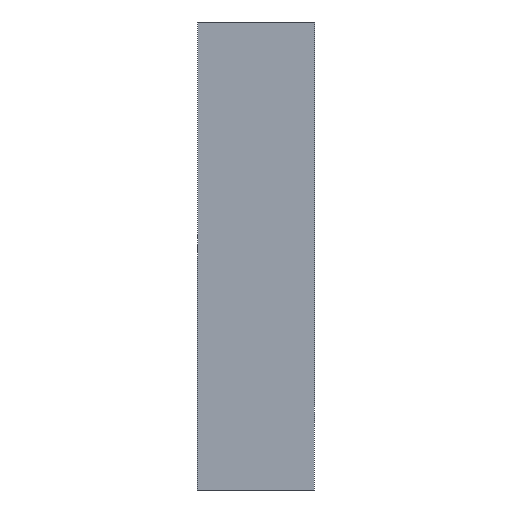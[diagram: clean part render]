
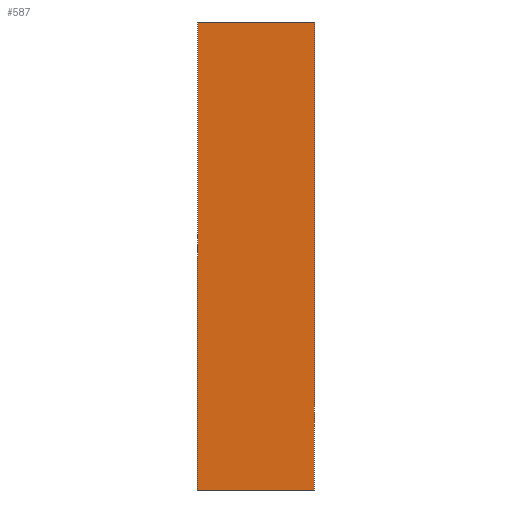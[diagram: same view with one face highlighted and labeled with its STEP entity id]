
A CAD part, front view. The second image highlights one B-rep face of the part: STEP entity #587.
In plain terms, the highlighted planar face has unit normal (0, -1, 0).
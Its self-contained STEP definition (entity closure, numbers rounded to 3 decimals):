
#31 = CARTESIAN_POINT ( 'NONE',  ( 25., -5., -100. ) ) ;
#112 = CARTESIAN_POINT ( 'NONE',  ( 25., -5., 100. ) ) ;
#113 = VECTOR ( 'NONE', #2060, 1000. ) ;
#165 = EDGE_CURVE ( 'NONE', #1278, #1076, #1044, .T. ) ;
#191 = VECTOR ( 'NONE', #648, 1000. ) ;
#423 = AXIS2_PLACEMENT_3D ( 'NONE', #2726, #1368, #695 ) ;
#502 = DIRECTION ( 'NONE',  ( -1., 0., 0. ) ) ;
#587 = ADVANCED_FACE ( 'NONE', ( #1055 ), #2040, .F. ) ;
#615 = EDGE_CURVE ( 'NONE', #919, #1278, #1676, .T. ) ;
#648 = DIRECTION ( 'NONE',  ( 0., 0., -1. ) ) ;
#695 = DIRECTION ( 'NONE',  ( 0., 0., 1. ) ) ;
#727 = CARTESIAN_POINT ( 'NONE',  ( -25., -5., -100. ) ) ;
#758 = ORIENTED_EDGE ( 'NONE', *, *, #1500, .F. ) ;
#919 = VERTEX_POINT ( 'NONE', #31 ) ;
#1044 = LINE ( 'NONE', #2556, #2059 ) ;
#1055 = FACE_OUTER_BOUND ( 'NONE', #1340, .T. ) ;
#1076 = VERTEX_POINT ( 'NONE', #2557 ) ;
#1138 = LINE ( 'NONE', #1992, #191 ) ;
#1183 = VECTOR ( 'NONE', #502, 1000. ) ;
#1278 = VERTEX_POINT ( 'NONE', #1535 ) ;
#1340 = EDGE_LOOP ( 'NONE', ( #1638, #758, #1619, #2000 ) ) ;
#1368 = DIRECTION ( 'NONE',  ( 0., 1., 0. ) ) ;
#1500 = EDGE_CURVE ( 'NONE', #1076, #2511, #2434, .T. ) ;
#1535 = CARTESIAN_POINT ( 'NONE',  ( -25., -5., -100. ) ) ;
#1619 = ORIENTED_EDGE ( 'NONE', *, *, #165, .F. ) ;
#1638 = ORIENTED_EDGE ( 'NONE', *, *, #2006, .F. ) ;
#1676 = LINE ( 'NONE', #727, #1183 ) ;
#1992 = CARTESIAN_POINT ( 'NONE',  ( 25., -5., -100. ) ) ;
#2000 = ORIENTED_EDGE ( 'NONE', *, *, #615, .F. ) ;
#2006 = EDGE_CURVE ( 'NONE', #2511, #919, #1138, .T. ) ;
#2040 = PLANE ( 'NONE',  #423 ) ;
#2059 = VECTOR ( 'NONE', #2789, 1000. ) ;
#2060 = DIRECTION ( 'NONE',  ( 1., 0., 0. ) ) ;
#2279 = CARTESIAN_POINT ( 'NONE',  ( -25., -5., 100. ) ) ;
#2434 = LINE ( 'NONE', #2279, #113 ) ;
#2511 = VERTEX_POINT ( 'NONE', #112 ) ;
#2556 = CARTESIAN_POINT ( 'NONE',  ( -25., -5., -100. ) ) ;
#2557 = CARTESIAN_POINT ( 'NONE',  ( -25., -5., 100. ) ) ;
#2726 = CARTESIAN_POINT ( 'NONE',  ( 0., -5., 0. ) ) ;
#2789 = DIRECTION ( 'NONE',  ( 0., 0., 1. ) ) ;
